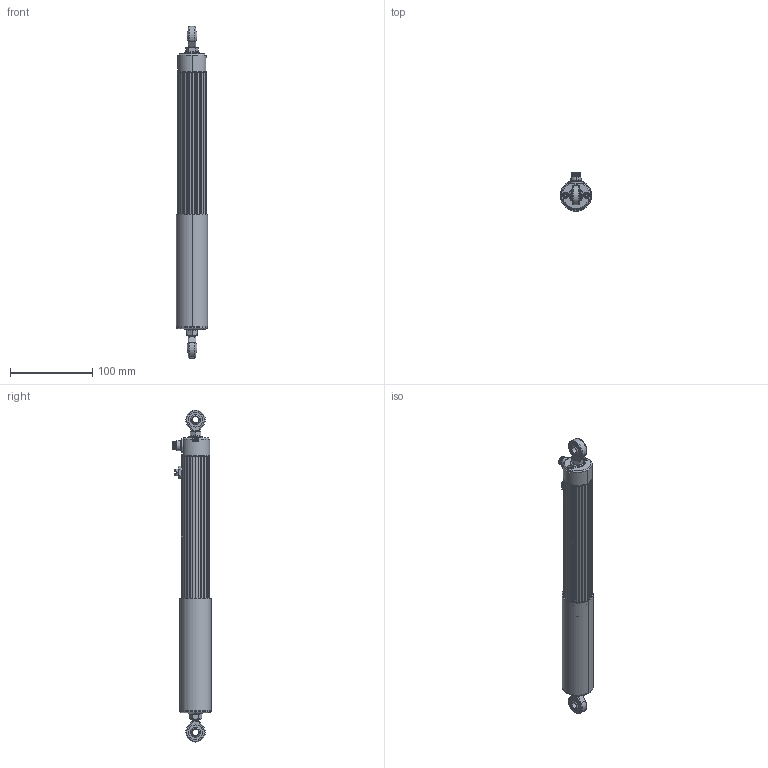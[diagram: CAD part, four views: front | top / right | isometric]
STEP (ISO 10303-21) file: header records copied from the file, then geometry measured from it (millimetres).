
FILE_DESCRIPTION (( 'STEP AP214' ), '1' );
FILE_NAME ('0100.STEP', '2009-01-27T10:00:41', ( 'novotechnik' ), ( 'novotechnik' ), 'SwSTEP 2.0', 'SolidWorks 2009', '' );
FILE_SCHEMA (( 'AUTOMOTIVE_DESIGN' ));
Length unit declared in the file: millimetre
Products named in the file (3): 0100; 0100_Bew
Assembly tree (2 placements, depth 2):
  0100
    0100_Bew
    0100
Bounding box: 38 x 46.6 x 403.6 mm (x, y, z)
Volume: 254445.5 mm3; surface area: 99804.7 mm2
Topology: 34 solids, 34 shells, 1092 faces, 2750 edges, 1748 vertices
Faces by surface type: cylinder 451, plane 338, cone 173, bspline 70, torus 42, sphere 18
Entity records: 48018 total; most frequent: CARTESIAN_POINT 9403, DIRECTION 5760, ORIENTED_EDGE 5486, EDGE_CURVE 2743, AXIS2_PLACEMENT_3D 2278, VERTEX_POINT 1745, CIRCLE 1251, VECTOR 1204
